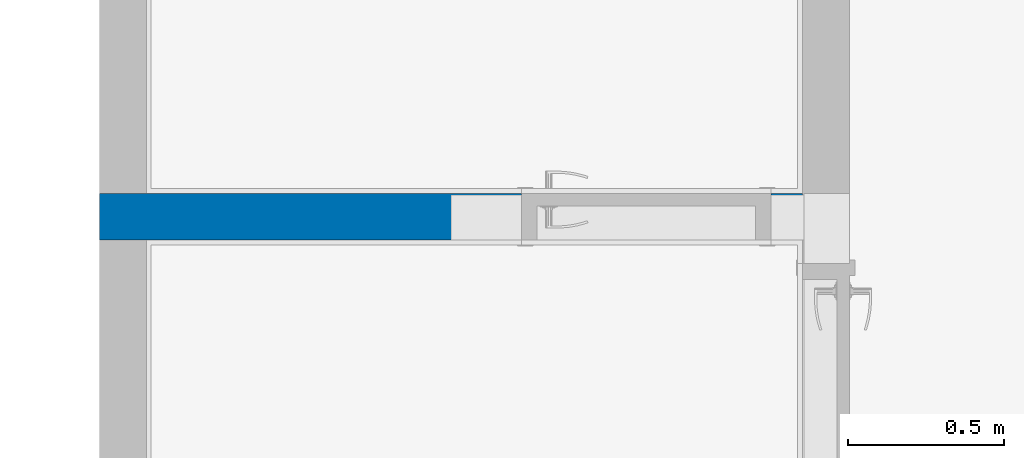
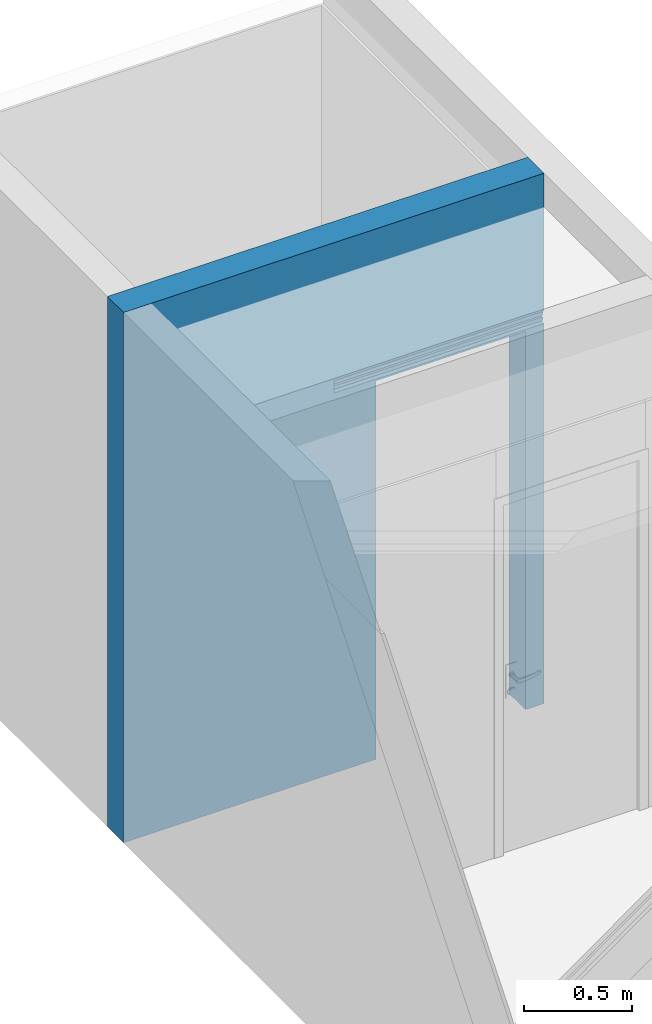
# One storey, part 10 of 17: 1 wall, 1 opening.
"""IFC4 building model written with IfcOpenShell, lengths in millimetres."""

from ifc_helpers import new_model, entity, si_unit, converted_unit, derived_unit, direction, frame, origin_with_axes, place, context, subcontext, project, spatial, polygons, material, constituent, constituent_set, type_object, element, save


model = new_model("IFC4")

# Units and contexts
model_context = context("Model", 3, precision=0.01, world=origin_with_axes(), true_north=direction((0.0, 1.0)))
body_context = subcontext(model_context, "Body", "Model", "MODEL_VIEW")
ifc_project = project(units=[si_unit("LENGTHUNIT", "METRE", prefix="MILLI"), si_unit("AREAUNIT", "SQUARE_METRE"), si_unit("VOLUMEUNIT", "CUBIC_METRE"), converted_unit("PLANEANGLEUNIT", "DEGREE", entity("IfcPlaneAngleMeasure", 0.0174532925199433), si_unit("PLANEANGLEUNIT", "RADIAN"), dimensions=[0, 0, 0, 0, 0, 0, 0]), converted_unit("TIMEUNIT", "Year", entity("IfcTimeMeasure", 31557600.0), si_unit("TIMEUNIT", "SECOND"), dimensions=[0, 0, 1, 0, 0, 0, 0]), si_unit("MASSUNIT", "GRAM", prefix="KILO"), si_unit("THERMODYNAMICTEMPERATUREUNIT", "DEGREE_CELSIUS"), si_unit("LUMINOUSINTENSITYUNIT", "LUMEN"), si_unit("ENERGYUNIT", "JOULE", prefix="MEGA"), derived_unit("THERMALCONDUCTANCEUNIT", [(si_unit("POWERUNIT", "WATT"), 1), (si_unit("LENGTHUNIT", "METRE"), -1), (si_unit("THERMODYNAMICTEMPERATUREUNIT", "KELVIN"), -1)]), derived_unit("SPECIFICHEATCAPACITYUNIT", [(si_unit("ENERGYUNIT", "JOULE"), 1), (si_unit("MASSUNIT", "GRAM", prefix="KILO"), -1), (si_unit("THERMODYNAMICTEMPERATUREUNIT", "KELVIN"), -1)]), derived_unit("MASSDENSITYUNIT", [(si_unit("MASSUNIT", "GRAM", prefix="KILO"), 1), (si_unit("VOLUMEUNIT", "CUBIC_METRE"), -1)])], contexts=[model_context])

# Site, building, storey
site_placement = place(None, origin_with_axes())
site = spatial("IfcSite", under=ifc_project, at=site_placement, Name="Exteriér", CompositionType="ELEMENT")
building_placement = place(site_placement, origin_with_axes())
building = spatial("IfcBuilding", under=site, at=building_placement, Name="Univerzitní lezecké centrum", CompositionType="ELEMENT")
storey_placement = place(building_placement, frame((0.0, 0.0, 3200.0), z_axis=(0.0, 0.0, 1.0), x_axis=(1.0, 0.0, 0.0)))
storey = spatial("IfcBuildingStorey", under=building, at=storey_placement, Name="2.NP", CompositionType="ELEMENT", Elevation=3200.0)

# Wall, opening
ifc_material = material(Name="Keramické tvárnice nenosné tl. 150 mm")
ifc_constituent = constituent(ifc_material, Name="Keramické tvárnice nenosné tl. 150 mm")
ifc_constituent_set = constituent_set(constituents=[ifc_constituent], Name="!Vnitřní keramická stěna 150 mm - nenosná**")
wall_type = type_object("IfcWallType", Name="!Vnitřní keramická stěna 150 mm - nenosná** 150", PredefinedType="NOTDEFINED")
wall_placement = place(storey_placement, frame((-5250.256495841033, 2350.00000000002, -120.000000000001), z_axis=(0.0, 0.0, 1.0), x_axis=(1.0, 0.0, 0.0)))
wall = element("IfcWall", 1, at=wall_placement, inside=storey, type_object=wall_type, material=ifc_constituent_set, Name="St07**", PredefinedType="NOTDEFINED", context=body_context, shape_type="Tessellation", body=[
    polygons([(1349.91210275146, 0.0, 0.500000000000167), (1349.91210275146, 150.0000000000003, 0.500000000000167), (1349.912102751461, 150.0000000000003, 120.000000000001), (1349.912102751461, 0.0, 120.000000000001), (1349.91210275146, 150.0000000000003, 0.0), (1349.91210275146, 0.0, 0.0), (2149.91210275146, 150.0000000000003, 0.0), (2149.91210275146, 150.0000000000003, 0.500000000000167), (2149.912102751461, 150.0000000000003, 120.000000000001), (2149.912102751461, 150.0000000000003, 2140.000000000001), (1349.912102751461, 150.0000000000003, 2140.000000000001), (0.0, 149.9999999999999, 0.0), (0.0, 150.0000000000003, 2999.999999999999), (2249.904729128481, 150.0000000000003, 2999.999999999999), (2249.904729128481, 150.0000000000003, 0.0), (1349.912102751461, 0.0, 2140.000000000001), (2149.91210275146, 0.0, 0.500000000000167), (2149.91210275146, 0.0, 0.0), (2249.904729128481, 0.0, 0.0), (2249.904729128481, 0.0, 2150.000000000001), (1124.912102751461, 0.0, 2150.000000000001), (1124.912102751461, 0.0, 2221.0), (2249.904729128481, 0.0, 2221.0), (2249.904729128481, 0.0, 2999.999999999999), (0.0, 0.0, 2999.999999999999), (0.0, 0.0, 0.0), (2149.912102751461, 0.0, 2140.000000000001), (2149.912102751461, 0.0, 120.000000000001), (2249.904729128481, 144.274998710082, 2221.0), (2249.904729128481, 144.274998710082, 2150.000000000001), (1124.912102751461, 144.274998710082, 2150.000000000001), (1124.912102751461, 144.274998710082, 2221.0), (1124.912102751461, 33.33250000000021, 2160.49963740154), (1124.912102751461, 11.4424999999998, 2160.49963740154), (1124.912102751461, 11.4424999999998, 2180.499637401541), (1124.912102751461, 33.33250000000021, 2180.499637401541), (1124.912102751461, 33.33250000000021, 2190.5), (1124.912102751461, 11.4424999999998, 2190.5), (1124.912102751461, 11.4424999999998, 2210.500000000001), (1124.912102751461, 33.33250000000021, 2210.500000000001), (1124.912102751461, 132.8313637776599, 2180.499637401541), (1124.912102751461, 132.8313637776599, 2160.49963740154), (1124.912102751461, 110.9413637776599, 2160.49963740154), (1124.912102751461, 110.9413637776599, 2180.499637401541), (1124.912102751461, 110.9413637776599, 2190.5), (1124.912102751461, 110.9413637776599, 2210.500000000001), (1124.912102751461, 132.8313637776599, 2210.500000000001), (1124.912102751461, 132.8313637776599, 2190.5), (2249.904729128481, 33.33249999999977, 2160.49963740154), (2249.904729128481, 11.4424999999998, 2160.49963740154), (2249.904729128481, 11.4424999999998, 2180.499637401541), (2249.904729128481, 33.33249999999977, 2180.499637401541), (2249.904729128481, 33.33249999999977, 2190.5), (2249.904729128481, 11.4424999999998, 2190.5), (2249.904729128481, 11.4424999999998, 2210.500000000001), (2249.904729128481, 33.33249999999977, 2210.500000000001), (2249.904729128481, 132.8313637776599, 2180.499637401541), (2249.904729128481, 132.8313637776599, 2160.49963740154), (2249.904729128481, 110.9413637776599, 2160.49963740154), (2249.904729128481, 110.9413637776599, 2180.499637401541), (2249.904729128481, 110.9413637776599, 2190.5), (2249.904729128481, 110.9413637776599, 2210.500000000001), (2249.904729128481, 132.8313637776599, 2210.500000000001), (2249.904729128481, 132.8313637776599, 2190.5)], [[[1, 2, 3, 4]], [[5, 2, 1, 6]], [[7, 8, 9, 10, 11, 3, 2, 5, 12, 13, 14, 15]], [[16, 4, 3, 11]], [[17, 18, 19, 20, 21, 22, 23, 24, 25, 26, 6, 1, 4, 16, 27, 28]], [[5, 6, 26, 12]], [[17, 8, 7, 18]], [[8, 17, 28, 9]], [[28, 27, 10, 9]], [[27, 16, 11, 10]], [[12, 26, 25, 13]], [[25, 24, 14, 13]], [[23, 29, 30, 20, 19, 15, 14, 24]], [[18, 7, 15, 19]], [[21, 20, 30, 31]], [[32, 22, 21, 31], [33, 34, 35, 36], [37, 38, 39, 40], [41, 42, 43, 44], [45, 46, 47, 48]], [[23, 22, 32, 29]], [[31, 30, 29, 32]], [[33, 49, 50, 34]], [[34, 50, 51, 35]], [[35, 51, 52, 36]], [[36, 52, 49, 33]], [[37, 53, 54, 38]], [[38, 54, 55, 39]], [[39, 55, 56, 40]], [[40, 56, 53, 37]], [[41, 57, 58, 42]], [[42, 58, 59, 43]], [[43, 59, 60, 44]], [[44, 60, 57, 41]], [[45, 61, 62, 46]], [[46, 62, 63, 47]], [[47, 63, 64, 48]], [[48, 64, 61, 45]], [[51, 50, 49, 52]], [[55, 54, 53, 56]], [[60, 59, 58, 57]], [[62, 61, 64, 63]]], closed=True),
])
opening_placement = place(wall_placement, frame((1749.912102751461, 0.0, 120.000000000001), z_axis=(0.0, 0.0, 1.0), x_axis=(1.0, 0.0, 0.0)))
element("IfcOpeningElement", 2, at=opening_placement, cuts=wall, Name="D06", context=body_context, identifier="Reference", shape_type="Tessellation", body=[
    polygons([(-399.9999999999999, 150.9999999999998, 2020.0), (399.9999999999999, 150.9999999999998, 2020.0), (399.9999999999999, 150.9999999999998, 0.0), (-399.9999999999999, 150.9999999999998, 0.0), (-411.9999999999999, 150.9999999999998, 0.0), (-411.9999999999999, 150.9999999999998, 2032.0), (411.9999999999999, 150.9999999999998, 2032.0), (411.9999999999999, 150.9999999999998, 0.0), (-399.9999999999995, 149.9999999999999, 0.0), (399.9999999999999, 149.9999999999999, 0.0), (399.9999999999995, 0.0, 0.0), (399.9999999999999, -0.9999999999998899, 0.0), (-399.9999999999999, -0.9999999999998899, 0.0), (-399.9999999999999, 0.0, 0.0), (-411.9999999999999, 149.9999999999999, 0.0), (-411.9999999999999, 149.9999999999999, 2032.0), (411.9999999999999, 149.9999999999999, 2032.0), (411.9999999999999, 149.9999999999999, 0.0), (399.9999999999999, 149.9999999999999, 2020.0), (399.9999999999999, 0.0, 2020.0), (411.9999999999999, 0.0, 0.0), (411.9999999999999, -0.9999999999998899, 0.0), (411.9999999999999, -0.9999999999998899, 2032.0), (-411.9999999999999, -0.9999999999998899, 2032.0), (-411.9999999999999, -0.9999999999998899, 0.0), (-411.9999999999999, 0.0, 0.0), (-399.9999999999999, 149.9999999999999, 2020.0), (-399.9999999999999, 0.0, 2020.0), (-411.9999999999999, 0.0, 2032.0), (411.9999999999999, 0.0, 2032.0)], [[[1, 2, 3, 4]], [[3, 2, 1, 4, 5, 6, 7, 8]], [[9, 4, 3, 10, 11, 12, 13, 14]], [[4, 9, 15, 5]], [[15, 16, 6, 5]], [[16, 17, 7, 6]], [[17, 18, 8, 7]], [[10, 3, 8, 18]], [[10, 19, 20, 11]], [[12, 11, 21, 22]], [[13, 12, 22, 23, 24, 25]], [[14, 13, 25, 26]], [[27, 9, 14, 28]], [[27, 19, 10, 18, 17, 16, 15, 9]], [[19, 27, 28, 20]], [[11, 20, 28, 14, 26, 29, 30, 21]], [[21, 30, 23, 22]], [[30, 29, 24, 23]], [[29, 26, 25, 24]]], closed=True),
])

save(model, "model.ifc")
